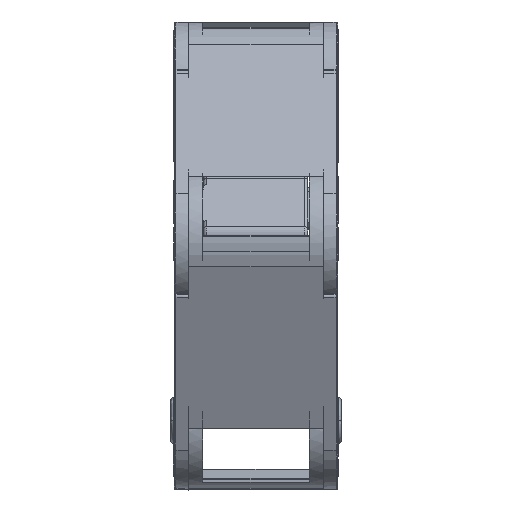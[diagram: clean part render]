
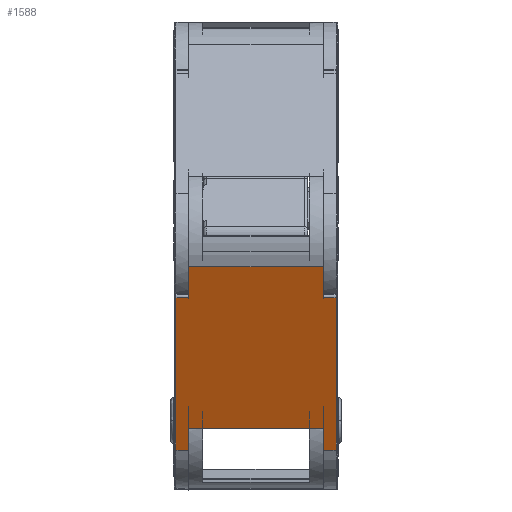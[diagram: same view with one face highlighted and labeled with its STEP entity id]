
A CAD part, top view. The second image highlights one B-rep face of the part: STEP entity #1588.
In plain terms, the highlighted planar face has unit normal (0, -0.407, 0.913) as drawn and (0, -1, 0) by its records, which use the part's own axes.
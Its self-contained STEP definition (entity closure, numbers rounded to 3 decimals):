
#14 = CARTESIAN_POINT ( 'NONE',  ( 175.312, -77.815, 6.336 ) ) ;
#127 = CARTESIAN_POINT ( 'NONE',  ( 196.737, -77.815, 6.336 ) ) ;
#403 = ORIENTED_EDGE ( 'NONE', *, *, #12571, .T. ) ;
#417 = EDGE_CURVE ( 'NONE', #4992, #5005, #11237, .T. ) ;
#794 = LINE ( 'NONE', #14146, #8499 ) ;
#1036 = EDGE_CURVE ( 'NONE', #10420, #19193, #18895, .T. ) ;
#1080 = CARTESIAN_POINT ( 'NONE',  ( 219.536, -77.815, 6.336 ) ) ;
#1375 = VERTEX_POINT ( 'NONE', #11856 ) ;
#1510 = LINE ( 'NONE', #4312, #5565 ) ;
#1528 = ORIENTED_EDGE ( 'NONE', *, *, #9214, .F. ) ;
#1561 = DIRECTION ( 'NONE',  ( 0., 0., 1. ) ) ;
#1588 = ADVANCED_FACE ( 'NONE', ( #13134 ), #16869, .F. ) ;
#1589 = DIRECTION ( 'NONE',  ( 0., 0., -1. ) ) ;
#2926 = VERTEX_POINT ( 'NONE', #10551 ) ;
#3040 = VECTOR ( 'NONE', #14527, 1000. ) ;
#3068 = EDGE_CURVE ( 'NONE', #7077, #8470, #3470, .T. ) ;
#3449 = CARTESIAN_POINT ( 'NONE',  ( 196.787, -77.815, 6.336 ) ) ;
#3450 = VECTOR ( 'NONE', #8829, 1000. ) ;
#3470 = LINE ( 'NONE', #16975, #15240 ) ;
#3613 = ORIENTED_EDGE ( 'NONE', *, *, #12806, .F. ) ;
#3663 = EDGE_CURVE ( 'NONE', #8470, #10513, #794, .T. ) ;
#3736 = CARTESIAN_POINT ( 'NONE',  ( 219.536, -77.815, 12.133 ) ) ;
#4160 = LINE ( 'NONE', #127, #12337 ) ;
#4312 = CARTESIAN_POINT ( 'NONE',  ( 175.312, -77.815, -17.794 ) ) ;
#4361 = CARTESIAN_POINT ( 'NONE',  ( 194.615, -77.815, 6.336 ) ) ;
#4638 = ORIENTED_EDGE ( 'NONE', *, *, #1036, .F. ) ;
#4992 = VERTEX_POINT ( 'NONE', #9205 ) ;
#5005 = VERTEX_POINT ( 'NONE', #15359 ) ;
#5081 = VECTOR ( 'NONE', #1589, 1000. ) ;
#5320 = CARTESIAN_POINT ( 'NONE',  ( 194.312, -77.815, 6.336 ) ) ;
#5565 = VECTOR ( 'NONE', #15084, 1000. ) ;
#5863 = ORIENTED_EDGE ( 'NONE', *, *, #12279, .F. ) ;
#5955 = ORIENTED_EDGE ( 'NONE', *, *, #417, .F. ) ;
#6468 = CARTESIAN_POINT ( 'NONE',  ( 175.312, -77.815, 12.133 ) ) ;
#6577 = LINE ( 'NONE', #11597, #18351 ) ;
#6896 = DIRECTION ( 'NONE',  ( 1., 0., 0. ) ) ;
#7077 = VERTEX_POINT ( 'NONE', #3736 ) ;
#7253 = CARTESIAN_POINT ( 'NONE',  ( 196.787, -77.815, 6.336 ) ) ;
#7463 = CARTESIAN_POINT ( 'NONE',  ( 196.787, -77.815, 12.133 ) ) ;
#7510 = LINE ( 'NONE', #7253, #3450 ) ;
#7973 = EDGE_CURVE ( 'NONE', #5005, #2926, #1510, .T. ) ;
#7985 = LINE ( 'NONE', #11616, #15681 ) ;
#8017 = DIRECTION ( 'NONE',  ( 1., 0., 0. ) ) ;
#8421 = LINE ( 'NONE', #5320, #12991 ) ;
#8470 = VERTEX_POINT ( 'NONE', #1080 ) ;
#8499 = VECTOR ( 'NONE', #17224, 1000. ) ;
#8829 = DIRECTION ( 'NONE',  ( 0., 0., 1. ) ) ;
#9205 = CARTESIAN_POINT ( 'NONE',  ( 219.586, -77.815, -21.805 ) ) ;
#9214 = EDGE_CURVE ( 'NONE', #15557, #7077, #12187, .T. ) ;
#9354 = DIRECTION ( 'NONE',  ( 0., 0., -1. ) ) ;
#9502 = CARTESIAN_POINT ( 'NONE',  ( 194.615, -77.815, 6.336 ) ) ;
#10066 = DIRECTION ( 'NONE',  ( 1., 0., 0. ) ) ;
#10110 = ORIENTED_EDGE ( 'NONE', *, *, #11339, .T. ) ;
#10291 = VECTOR ( 'NONE', #11598, 1000. ) ;
#10420 = VERTEX_POINT ( 'NONE', #15531 ) ;
#10513 = VERTEX_POINT ( 'NONE', #15590 ) ;
#10551 = CARTESIAN_POINT ( 'NONE',  ( 196.737, -77.815, -17.794 ) ) ;
#10777 = DIRECTION ( 'NONE',  ( 0., 1., 0. ) ) ;
#11237 = LINE ( 'NONE', #17412, #10291 ) ;
#11339 = EDGE_CURVE ( 'NONE', #4992, #18934, #6577, .T. ) ;
#11581 = CARTESIAN_POINT ( 'NONE',  ( 221.708, -77.815, -21.805 ) ) ;
#11597 = CARTESIAN_POINT ( 'NONE',  ( 175.312, -77.815, -21.805 ) ) ;
#11598 = DIRECTION ( 'NONE',  ( 0., 0., 1. ) ) ;
#11616 = CARTESIAN_POINT ( 'NONE',  ( 194.312, -77.815, -21.805 ) ) ;
#11661 = VERTEX_POINT ( 'NONE', #3449 ) ;
#11856 = CARTESIAN_POINT ( 'NONE',  ( 196.737, -77.815, -21.805 ) ) ;
#11976 = EDGE_CURVE ( 'NONE', #11661, #15557, #7510, .T. ) ;
#12187 = LINE ( 'NONE', #6468, #19872 ) ;
#12279 = EDGE_CURVE ( 'NONE', #2926, #1375, #4160, .T. ) ;
#12337 = VECTOR ( 'NONE', #9354, 1000. ) ;
#12350 = DIRECTION ( 'NONE',  ( 0., 0., -1. ) ) ;
#12571 = EDGE_CURVE ( 'NONE', #10420, #1375, #7985, .T. ) ;
#12806 = EDGE_CURVE ( 'NONE', #10513, #18934, #16871, .T. ) ;
#12991 = VECTOR ( 'NONE', #6896, 1000. ) ;
#13134 = FACE_OUTER_BOUND ( 'NONE', #18069, .T. ) ;
#14146 = CARTESIAN_POINT ( 'NONE',  ( 175.021, -77.815, 6.336 ) ) ;
#14527 = DIRECTION ( 'NONE',  ( 0., 0., 1. ) ) ;
#14944 = EDGE_CURVE ( 'NONE', #19193, #11661, #8421, .T. ) ;
#15084 = DIRECTION ( 'NONE',  ( -1., 0., 0. ) ) ;
#15240 = VECTOR ( 'NONE', #12350, 1000. ) ;
#15359 = CARTESIAN_POINT ( 'NONE',  ( 219.586, -77.815, -17.794 ) ) ;
#15531 = CARTESIAN_POINT ( 'NONE',  ( 194.615, -77.815, -21.805 ) ) ;
#15557 = VERTEX_POINT ( 'NONE', #7463 ) ;
#15590 = CARTESIAN_POINT ( 'NONE',  ( 221.708, -77.815, 6.336 ) ) ;
#15681 = VECTOR ( 'NONE', #19337, 1000. ) ;
#16327 = ORIENTED_EDGE ( 'NONE', *, *, #7973, .F. ) ;
#16869 = PLANE ( 'NONE',  #17574 ) ;
#16871 = LINE ( 'NONE', #17030, #5081 ) ;
#16975 = CARTESIAN_POINT ( 'NONE',  ( 219.536, -77.815, 12.133 ) ) ;
#17030 = CARTESIAN_POINT ( 'NONE',  ( 221.708, -77.815, 6.336 ) ) ;
#17121 = ORIENTED_EDGE ( 'NONE', *, *, #3068, .F. ) ;
#17224 = DIRECTION ( 'NONE',  ( 1., 0., 0. ) ) ;
#17412 = CARTESIAN_POINT ( 'NONE',  ( 219.586, -77.815, 6.336 ) ) ;
#17463 = ORIENTED_EDGE ( 'NONE', *, *, #14944, .F. ) ;
#17574 = AXIS2_PLACEMENT_3D ( 'NONE', #14, #10777, #1561 ) ;
#18069 = EDGE_LOOP ( 'NONE', ( #5863, #16327, #5955, #10110, #3613, #19092, #17121, #1528, #18401, #17463, #4638, #403 ) ) ;
#18351 = VECTOR ( 'NONE', #10066, 1000. ) ;
#18401 = ORIENTED_EDGE ( 'NONE', *, *, #11976, .F. ) ;
#18895 = LINE ( 'NONE', #9502, #3040 ) ;
#18934 = VERTEX_POINT ( 'NONE', #11581 ) ;
#19092 = ORIENTED_EDGE ( 'NONE', *, *, #3663, .F. ) ;
#19193 = VERTEX_POINT ( 'NONE', #4361 ) ;
#19337 = DIRECTION ( 'NONE',  ( 1., 0., 0. ) ) ;
#19872 = VECTOR ( 'NONE', #8017, 1000. ) ;
